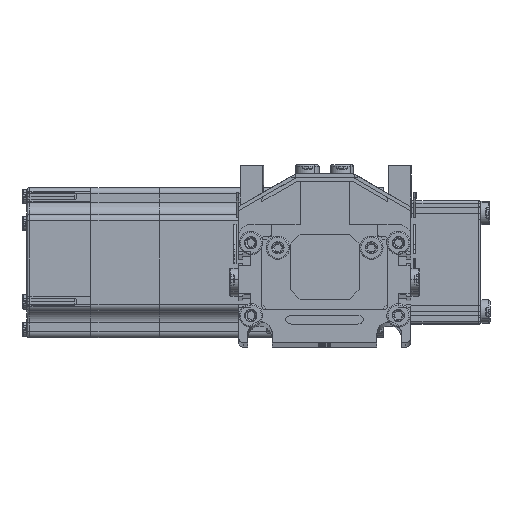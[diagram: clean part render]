
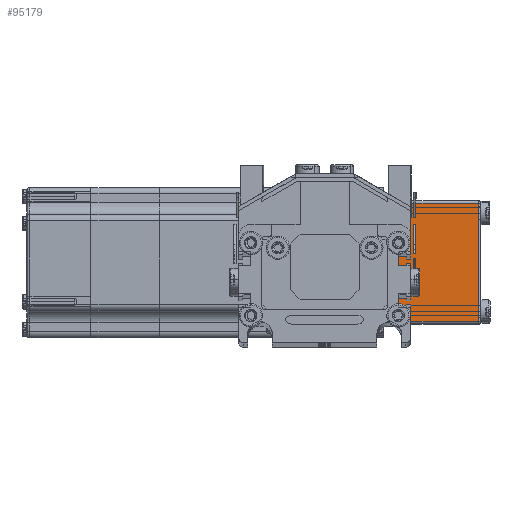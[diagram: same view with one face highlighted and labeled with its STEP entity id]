
A CAD part, top view. The second image highlights one B-rep face of the part: STEP entity #95179.
In plain terms, the highlighted planar face has unit normal (0, 0, 1) as drawn and (-1, 0, 0) by its records, which use the part's own axes.
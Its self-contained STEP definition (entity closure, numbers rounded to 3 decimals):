
#95162 = VERTEX_POINT ( 'NONE', #113842 ) ;
#95173 = VERTEX_POINT ( 'NONE', #113479 ) ;
#95175 = EDGE_CURVE ( 'NONE', #95177, #95184, #113488, .T. ) ;
#95177 = VERTEX_POINT ( 'NONE', #113559 ) ;
#95179 = ADVANCED_FACE ( 'NONE', ( #113540 ), #113492, .F. ) ;
#95180 = EDGE_CURVE ( 'NONE', #95184, #95173, #113788, .T. ) ;
#95181 = EDGE_LOOP ( 'NONE', ( #95306, #95188, #95452, #95450 ) ) ;
#95184 = VERTEX_POINT ( 'NONE', #113530 ) ;
#95188 = ORIENTED_EDGE ( 'NONE', *, *, #95180, .T. ) ;
#95306 = ORIENTED_EDGE ( 'NONE', *, *, #95175, .T. ) ;
#95315 = EDGE_CURVE ( 'NONE', #95173, #95162, #114189, .T. ) ;
#95435 = EDGE_CURVE ( 'NONE', #95162, #95177, #114067, .T. ) ;
#95450 = ORIENTED_EDGE ( 'NONE', *, *, #95435, .T. ) ;
#95452 = ORIENTED_EDGE ( 'NONE', *, *, #95315, .T. ) ;
#113479 = CARTESIAN_POINT ( 'NONE',  ( -50., -24., 38.5 ) ) ;
#113488 = LINE ( 'NONE', #113548, #113547 ) ;
#113492 = PLANE ( 'NONE',  #113553 ) ;
#113530 = CARTESIAN_POINT ( 'NONE',  ( -50., -24., 0. ) ) ;
#113540 = FACE_OUTER_BOUND ( 'NONE', #95181, .T. ) ;
#113545 = DIRECTION ( 'NONE',  ( 0., -1., 0. ) ) ;
#113547 = VECTOR ( 'NONE', #113545, 1000. ) ;
#113548 = CARTESIAN_POINT ( 'NONE',  ( -50., 25., 0. ) ) ;
#113553 = AXIS2_PLACEMENT_3D ( 'NONE', #113783, #113781, #113780 ) ;
#113559 = CARTESIAN_POINT ( 'NONE',  ( -50., 24., 0. ) ) ;
#113770 = DIRECTION ( 'NONE',  ( 0., 0., 1. ) ) ;
#113772 = VECTOR ( 'NONE', #113770, 1000. ) ;
#113780 = DIRECTION ( 'NONE',  ( 0., 1., 0. ) ) ;
#113781 = DIRECTION ( 'NONE',  ( 1., 0., 0. ) ) ;
#113783 = CARTESIAN_POINT ( 'NONE',  ( -50., 25., 39.5 ) ) ;
#113786 = CARTESIAN_POINT ( 'NONE',  ( -50., -24., 39.5 ) ) ;
#113788 = LINE ( 'NONE', #113786, #113772 ) ;
#113842 = CARTESIAN_POINT ( 'NONE',  ( -50., 24., 38.5 ) ) ;
#114062 = DIRECTION ( 'NONE',  ( 0., 0., -1. ) ) ;
#114063 = VECTOR ( 'NONE', #114062, 1000. ) ;
#114065 = CARTESIAN_POINT ( 'NONE',  ( -50., 24., 39.5 ) ) ;
#114067 = LINE ( 'NONE', #114065, #114063 ) ;
#114164 = DIRECTION ( 'NONE',  ( 0., 1., 0. ) ) ;
#114165 = VECTOR ( 'NONE', #114164, 1000. ) ;
#114188 = CARTESIAN_POINT ( 'NONE',  ( -50., 25., 38.5 ) ) ;
#114189 = LINE ( 'NONE', #114188, #114165 ) ;
